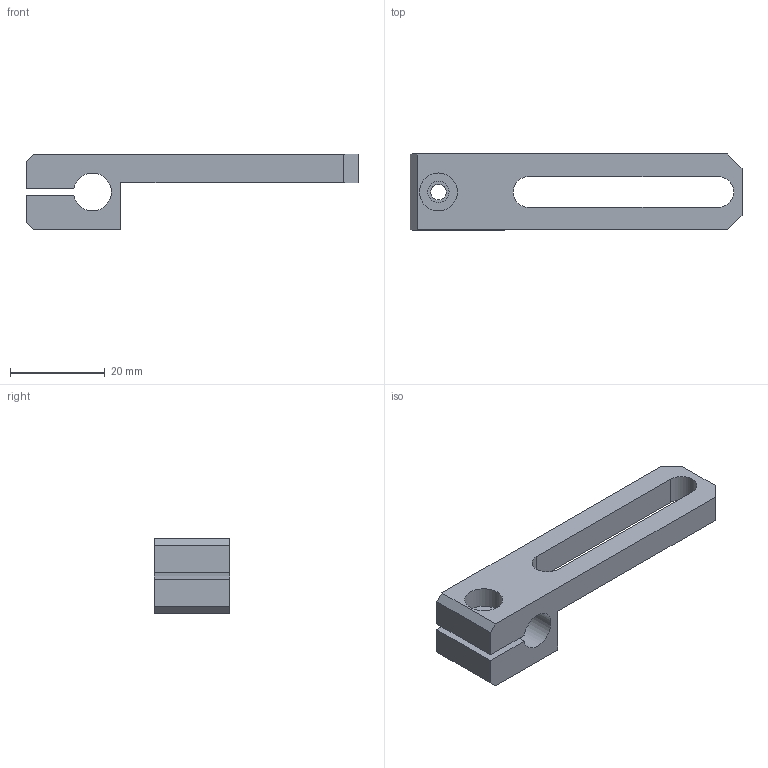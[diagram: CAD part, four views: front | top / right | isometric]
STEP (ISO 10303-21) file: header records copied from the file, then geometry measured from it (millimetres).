
FILE_DESCRIPTION (( 'STEP AP203' ), '1' );
FILE_NAME ('XL0005-102(230051).STEP', '2019-09-10T10:10:41', ( '' ), ( '' ), 'SwSTEP 2.0', 'SolidWorks 2018', '' );
FILE_SCHEMA (( 'CONFIG_CONTROL_DESIGN' ));
Length unit declared in the file: millimetre
Products named in the file (2): XL0005-102(230051)
Bounding box: 70 x 16 x 16 mm (x, y, z)
Volume: 6694.1 mm3; surface area: 4660.3 mm2
Topology: 1 solids, 1 shells, 24 faces, 64 edges, 43 vertices
Faces by surface type: plane 18, cylinder 6
Full cylindrical faces by diameter (mm): 3.3 x1, 4.5 x1, 8 x1
Entity records: 891 total; most frequent: CARTESIAN_POINT 128, DIRECTION 124, ORIENTED_EDGE 120, EDGE_CURVE 60, LINE 48, VECTOR 48, VERTEX_POINT 42, AXIS2_PLACEMENT_3D 38
